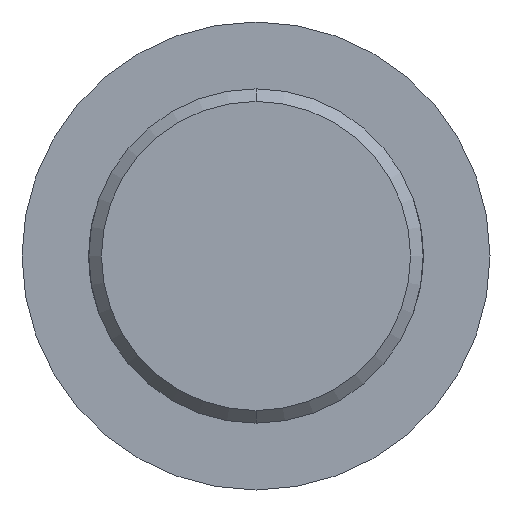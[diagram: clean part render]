
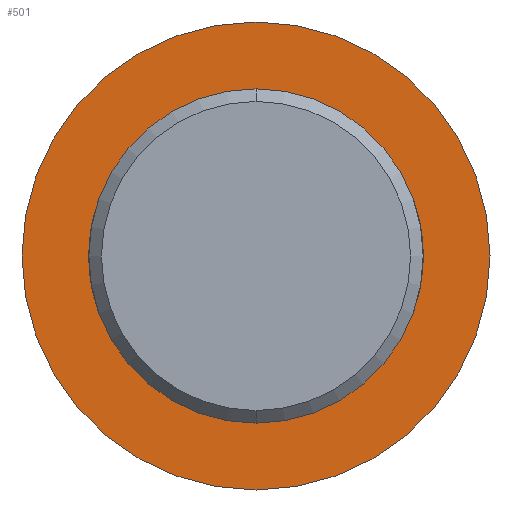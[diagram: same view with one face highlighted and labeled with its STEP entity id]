
A CAD part, front view. The second image highlights one B-rep face of the part: STEP entity #501.
In plain terms, the highlighted planar face has unit normal (0, -1, 0).
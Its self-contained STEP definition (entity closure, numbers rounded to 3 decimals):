
#5 = EDGE_CURVE ( 'NONE', #384, #185, #366, .T. ) ;
#14 = CARTESIAN_POINT ( 'NONE',  ( 0., 0., 0. ) ) ;
#18 = EDGE_LOOP ( 'NONE', ( #518, #178 ) ) ;
#36 = DIRECTION ( 'NONE',  ( 0., 1., 0. ) ) ;
#49 = CIRCLE ( 'NONE', #264, 14. ) ;
#61 = AXIS2_PLACEMENT_3D ( 'NONE', #485, #530, #275 ) ;
#78 = CARTESIAN_POINT ( 'NONE',  ( 0., 0., 0. ) ) ;
#80 = DIRECTION ( 'NONE',  ( 0., 0., 1. ) ) ;
#91 = DIRECTION ( 'NONE',  ( 0., 0., -1. ) ) ;
#111 = CARTESIAN_POINT ( 'NONE',  ( 0., 0., 14. ) ) ;
#138 = DIRECTION ( 'NONE',  ( 0., -1., 0. ) ) ;
#143 = VERTEX_POINT ( 'NONE', #111 ) ;
#148 = EDGE_CURVE ( 'NONE', #143, #378, #296, .T. ) ;
#177 = CARTESIAN_POINT ( 'NONE',  ( 0., 0., 0. ) ) ;
#178 = ORIENTED_EDGE ( 'NONE', *, *, #148, .F. ) ;
#185 = VERTEX_POINT ( 'NONE', #295 ) ;
#249 = DIRECTION ( 'NONE',  ( 0., 1., 0. ) ) ;
#258 = AXIS2_PLACEMENT_3D ( 'NONE', #177, #138, #91 ) ;
#264 = AXIS2_PLACEMENT_3D ( 'NONE', #535, #249, #80 ) ;
#275 = DIRECTION ( 'NONE',  ( 0., 0., 1. ) ) ;
#286 = PLANE ( 'NONE',  #529 ) ;
#294 = EDGE_CURVE ( 'NONE', #378, #143, #49, .T. ) ;
#295 = CARTESIAN_POINT ( 'NONE',  ( 0., 0., -10. ) ) ;
#296 = CIRCLE ( 'NONE', #61, 14. ) ;
#297 = CARTESIAN_POINT ( 'NONE',  ( 0., 0., 10. ) ) ;
#311 = ORIENTED_EDGE ( 'NONE', *, *, #5, .F. ) ;
#339 = DIRECTION ( 'NONE',  ( 0., -1., 0. ) ) ;
#345 = DIRECTION ( 'NONE',  ( 0., 0., -1. ) ) ;
#366 = CIRCLE ( 'NONE', #497, 10. ) ;
#377 = CARTESIAN_POINT ( 'NONE',  ( 0., 0., -14. ) ) ;
#378 = VERTEX_POINT ( 'NONE', #377 ) ;
#384 = VERTEX_POINT ( 'NONE', #297 ) ;
#391 = ORIENTED_EDGE ( 'NONE', *, *, #398, .F. ) ;
#398 = EDGE_CURVE ( 'NONE', #185, #384, #490, .T. ) ;
#403 = DIRECTION ( 'NONE',  ( 0., 0., 1. ) ) ;
#469 = EDGE_LOOP ( 'NONE', ( #311, #391 ) ) ;
#485 = CARTESIAN_POINT ( 'NONE',  ( 0., 0., 0. ) ) ;
#490 = CIRCLE ( 'NONE', #258, 10. ) ;
#497 = AXIS2_PLACEMENT_3D ( 'NONE', #14, #339, #345 ) ;
#501 = ADVANCED_FACE ( 'NONE', ( #536, #533 ), #286, .F. ) ;
#518 = ORIENTED_EDGE ( 'NONE', *, *, #294, .F. ) ;
#529 = AXIS2_PLACEMENT_3D ( 'NONE', #78, #36, #403 ) ;
#530 = DIRECTION ( 'NONE',  ( 0., 1., 0. ) ) ;
#533 = FACE_OUTER_BOUND ( 'NONE', #18, .T. ) ;
#535 = CARTESIAN_POINT ( 'NONE',  ( 0., 0., 0. ) ) ;
#536 = FACE_BOUND ( 'NONE', #469, .T. ) ;
